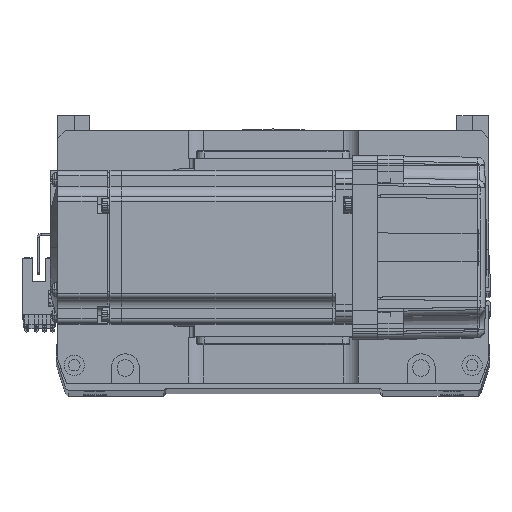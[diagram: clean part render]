
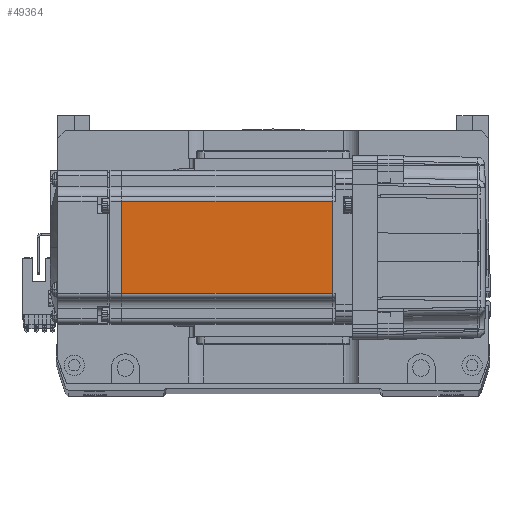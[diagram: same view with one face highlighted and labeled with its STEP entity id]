
A CAD part, top view. The second image highlights one B-rep face of the part: STEP entity #49364.
In plain terms, the highlighted planar face has unit normal (0, 0, 1).
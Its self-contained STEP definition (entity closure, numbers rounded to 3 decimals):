
#1084 = DIRECTION ( 'NONE',  ( 0., -1., 0. ) ) ;
#4524 = ORIENTED_EDGE ( 'NONE', *, *, #5483, .F. ) ;
#5483 = EDGE_CURVE ( 'NONE', #37873, #8279, #48081, .T. ) ;
#8279 = VERTEX_POINT ( 'NONE', #55956 ) ;
#9012 = DIRECTION ( 'NONE',  ( 0., -1., 0. ) ) ;
#9234 = VECTOR ( 'NONE', #18079, 1000. ) ;
#10176 = AXIS2_PLACEMENT_3D ( 'NONE', #11457, #24535, #45728 ) ;
#10307 = VECTOR ( 'NONE', #1084, 1000. ) ;
#11457 = CARTESIAN_POINT ( 'NONE',  ( -6.5, -25., 30. ) ) ;
#11838 = VERTEX_POINT ( 'NONE', #13666 ) ;
#13666 = CARTESIAN_POINT ( 'NONE',  ( -90.45, -18., 30. ) ) ;
#17349 = VECTOR ( 'NONE', #9012, 1000. ) ;
#18079 = DIRECTION ( 'NONE',  ( -1., 0., 0. ) ) ;
#18213 = VERTEX_POINT ( 'NONE', #22775 ) ;
#21771 = ORIENTED_EDGE ( 'NONE', *, *, #45808, .T. ) ;
#22775 = CARTESIAN_POINT ( 'NONE',  ( -90.45, 18., 30. ) ) ;
#23238 = VECTOR ( 'NONE', #53384, 1000. ) ;
#24535 = DIRECTION ( 'NONE',  ( 0., 0., 1. ) ) ;
#25526 = FACE_OUTER_BOUND ( 'NONE', #40390, .T. ) ;
#28178 = EDGE_CURVE ( 'NONE', #8279, #11838, #29254, .T. ) ;
#29254 = LINE ( 'NONE', #43746, #9234 ) ;
#31057 = PLANE ( 'NONE',  #10176 ) ;
#34667 = CARTESIAN_POINT ( 'NONE',  ( -6.5, 18., 30. ) ) ;
#37873 = VERTEX_POINT ( 'NONE', #42480 ) ;
#40390 = EDGE_LOOP ( 'NONE', ( #4524, #55787, #21771, #54320 ) ) ;
#42480 = CARTESIAN_POINT ( 'NONE',  ( -7.75, 18., 30. ) ) ;
#43728 = CARTESIAN_POINT ( 'NONE',  ( -90.45, 0., 30. ) ) ;
#43746 = CARTESIAN_POINT ( 'NONE',  ( -6.5, -18., 30. ) ) ;
#45728 = DIRECTION ( 'NONE',  ( 1., 0., 0. ) ) ;
#45808 = EDGE_CURVE ( 'NONE', #18213, #11838, #46719, .T. ) ;
#46719 = LINE ( 'NONE', #43728, #17349 ) ;
#48081 = LINE ( 'NONE', #50825, #10307 ) ;
#48338 = EDGE_CURVE ( 'NONE', #37873, #18213, #58748, .T. ) ;
#49364 = ADVANCED_FACE ( 'NONE', ( #25526 ), #31057, .T. ) ;
#50825 = CARTESIAN_POINT ( 'NONE',  ( -7.75, 0., 30. ) ) ;
#53384 = DIRECTION ( 'NONE',  ( -1., 0., 0. ) ) ;
#54320 = ORIENTED_EDGE ( 'NONE', *, *, #28178, .F. ) ;
#55787 = ORIENTED_EDGE ( 'NONE', *, *, #48338, .T. ) ;
#55956 = CARTESIAN_POINT ( 'NONE',  ( -7.75, -18., 30. ) ) ;
#58748 = LINE ( 'NONE', #34667, #23238 ) ;
